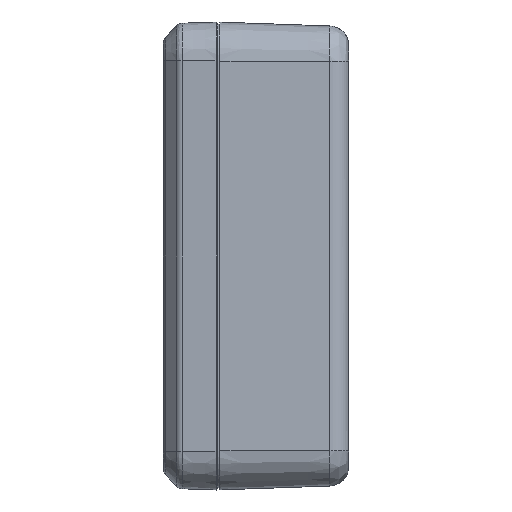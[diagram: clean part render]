
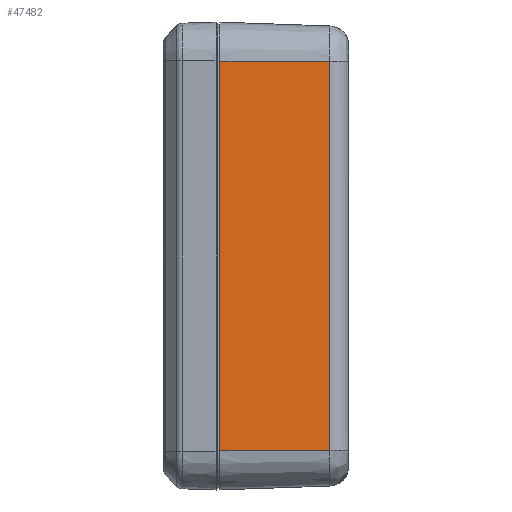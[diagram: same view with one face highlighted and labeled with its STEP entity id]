
A CAD part, left-side view. The second image highlights one B-rep face of the part: STEP entity #47482.
In plain terms, the highlighted planar face has unit normal (-0.999, -0.035, 0).
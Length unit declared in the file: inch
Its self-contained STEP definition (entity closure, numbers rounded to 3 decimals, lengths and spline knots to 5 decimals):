
#31 = LINE ( 'NONE', #28248, #39193 ) ;
#2083 = CARTESIAN_POINT ( 'NONE',  ( 0.53155, -0.42026, -2.81575 ) ) ;
#3996 = DIRECTION ( 'NONE',  ( 0., 0., 1. ) ) ;
#8922 = ORIENTED_EDGE ( 'NONE', *, *, #64865, .T. ) ;
#10150 = EDGE_CURVE ( 'NONE', #108088, #13320, #34370, .T. ) ;
#10396 = ORIENTED_EDGE ( 'NONE', *, *, #63709, .T. ) ;
#10552 = VECTOR ( 'NONE', #10757, 39.37008 ) ;
#10757 = DIRECTION ( 'NONE',  ( -0.035, 0.999, 0. ) ) ;
#11264 = CARTESIAN_POINT ( 'NONE',  ( 0.53155, -0.42026, -0.84902 ) ) ;
#12181 = VECTOR ( 'NONE', #3996, 39.37008 ) ;
#13320 = VERTEX_POINT ( 'NONE', #50680 ) ;
#13354 = VECTOR ( 'NONE', #18498, 39.37008 ) ;
#13496 = VERTEX_POINT ( 'NONE', #63690 ) ;
#18498 = DIRECTION ( 'NONE',  ( 0., 0., 1. ) ) ;
#20710 = VERTEX_POINT ( 'NONE', #11264 ) ;
#23035 = PLANE ( 'NONE',  #39344 ) ;
#26821 = FACE_OUTER_BOUND ( 'NONE', #40521, .T. ) ;
#28094 = CARTESIAN_POINT ( 'NONE',  ( 0.49281, 0.68898, -2.81575 ) ) ;
#28209 = EDGE_CURVE ( 'NONE', #108088, #13496, #31, .T. ) ;
#28248 = CARTESIAN_POINT ( 'NONE',  ( 0.51218, 0.13436, -4.78248 ) ) ;
#33535 = CARTESIAN_POINT ( 'NONE',  ( 0.49281, 0.68898, -4.78248 ) ) ;
#34370 = LINE ( 'NONE', #28094, #12181 ) ;
#39193 = VECTOR ( 'NONE', #95205, 39.37008 ) ;
#39344 = AXIS2_PLACEMENT_3D ( 'NONE', #81267, #39797, #98057 ) ;
#39797 = DIRECTION ( 'NONE',  ( -0.999, -0.035, 0. ) ) ;
#40521 = EDGE_LOOP ( 'NONE', ( #51995, #10396, #8922, #98615 ) ) ;
#47482 = ADVANCED_FACE ( 'NONE', ( #26821 ), #23035, .T. ) ;
#50680 = CARTESIAN_POINT ( 'NONE',  ( 0.49281, 0.68898, -0.84902 ) ) ;
#51995 = ORIENTED_EDGE ( 'NONE', *, *, #28209, .T. ) ;
#52253 = CARTESIAN_POINT ( 'NONE',  ( 0.51218, 0.13436, -0.84902 ) ) ;
#60262 = LINE ( 'NONE', #2083, #13354 ) ;
#63690 = CARTESIAN_POINT ( 'NONE',  ( 0.53155, -0.42026, -4.78248 ) ) ;
#63709 = EDGE_CURVE ( 'NONE', #13496, #20710, #60262, .T. ) ;
#64865 = EDGE_CURVE ( 'NONE', #20710, #13320, #76919, .T. ) ;
#76919 = LINE ( 'NONE', #52253, #10552 ) ;
#81267 = CARTESIAN_POINT ( 'NONE',  ( 0.53232, -0.44244, -4.86115 ) ) ;
#95205 = DIRECTION ( 'NONE',  ( 0.035, -0.999, 0. ) ) ;
#98057 = DIRECTION ( 'NONE',  ( 0., 0., 1. ) ) ;
#98615 = ORIENTED_EDGE ( 'NONE', *, *, #10150, .F. ) ;
#108088 = VERTEX_POINT ( 'NONE', #33535 ) ;
